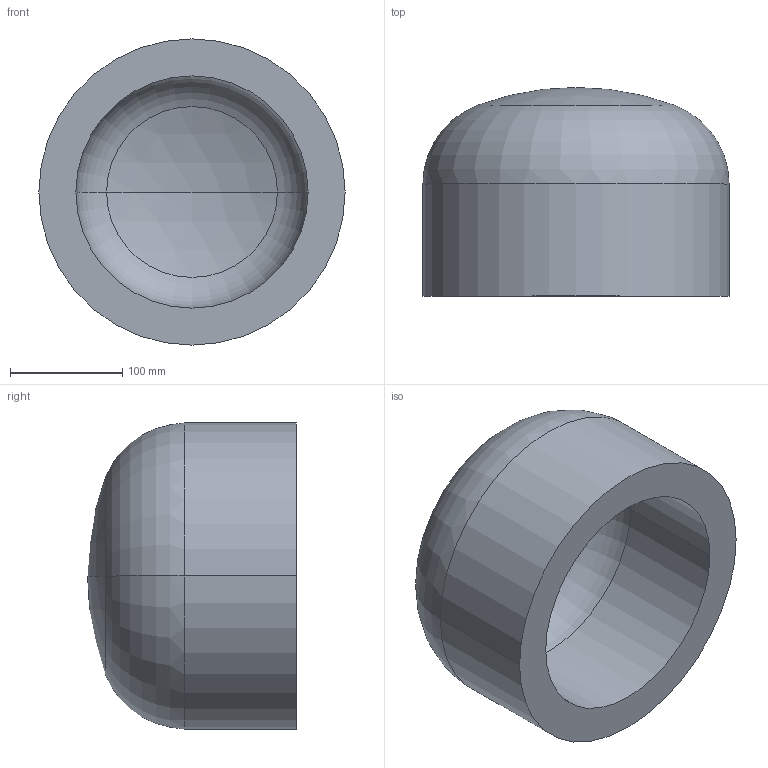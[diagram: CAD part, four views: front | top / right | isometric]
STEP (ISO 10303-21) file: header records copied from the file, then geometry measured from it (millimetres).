
FILE_DESCRIPTION (( 'STEP AP203' ), '1' );
FILE_NAME ('DIN 28013 Korbbogenform_-_Boden DIN 28013 - 273 x 100 - I - s=33.step', '2016-07-01T07:43:56', ( '' ), ( '' ), 'SwSTEP 2.0', 'SolidWorks 2013', '' );
FILE_SCHEMA (( 'CONFIG_CONTROL_DESIGN' ));
Length unit declared in the file: millimetre
Products named in the file (1): DIN 28013 Korbbogenform_-_Boden DIN 28013 - 273 x 100 - I - s=33
Bounding box: 273 x 186.09 x 273 mm (x, y, z)
Volume: 4796061.6 mm3; surface area: 317832.6 mm2
Topology: 1 solids, 1 shells, 13 faces, 24 edges, 14 vertices
Faces by surface type: torus 4, cylinder 4, sphere 4, plane 1
Entity records: 407 total; most frequent: DIRECTION 72, CARTESIAN_POINT 52, ORIENTED_EDGE 48, AXIS2_PLACEMENT_3D 34, EDGE_CURVE 24, CIRCLE 20, EDGE_LOOP 14, VERTEX_POINT 14
